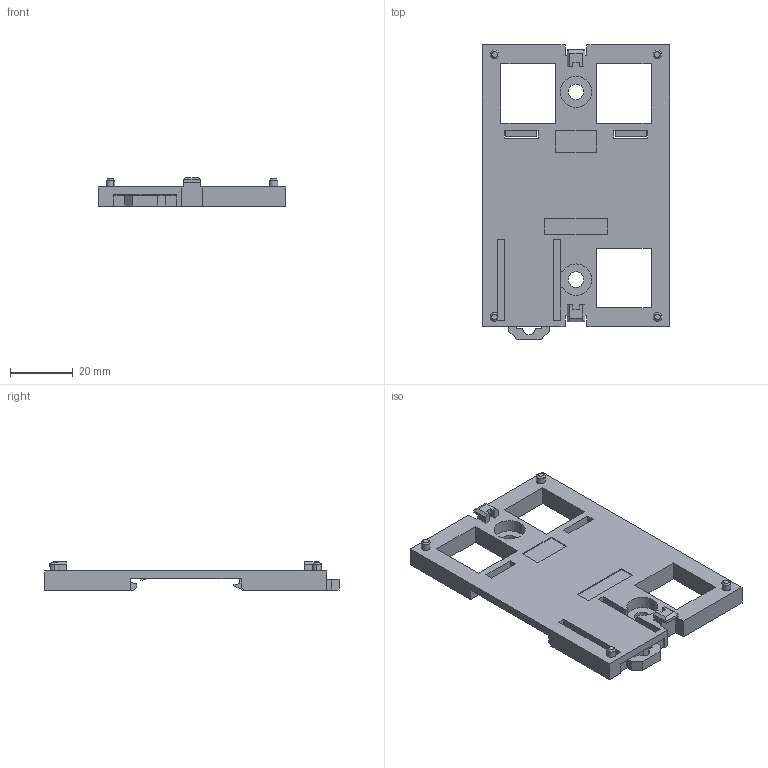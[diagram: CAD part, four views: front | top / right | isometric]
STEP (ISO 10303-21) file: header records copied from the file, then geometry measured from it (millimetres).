
FILE_DESCRIPTION (( 'STEP AP203' ), '1' );
FILE_NAME ('afp0804.STEP', '2015-07-03T02:06:18', ( '' ), ( '' ), 'SwSTEP 2.0', 'SolidWorks 2010', '' );
FILE_SCHEMA (( 'CONFIG_CONTROL_DESIGN' ));
Length unit declared in the file: millimetre
Products named in the file (1): afp0804
Bounding box: 60 x 94 x 9.2 mm (x, y, z)
Volume: 17444.3 mm3; surface area: 14266 mm2
Topology: 1 solids, 1 shells, 197 faces, 566 edges, 373 vertices
Faces by surface type: plane 159, cylinder 30, cone 8
Entity records: 6495 total; most frequent: CARTESIAN_POINT 1147, ORIENTED_EDGE 1132, DIRECTION 1028, EDGE_CURVE 566, LINE 496, VECTOR 496, VERTEX_POINT 373, AXIS2_PLACEMENT_3D 266
